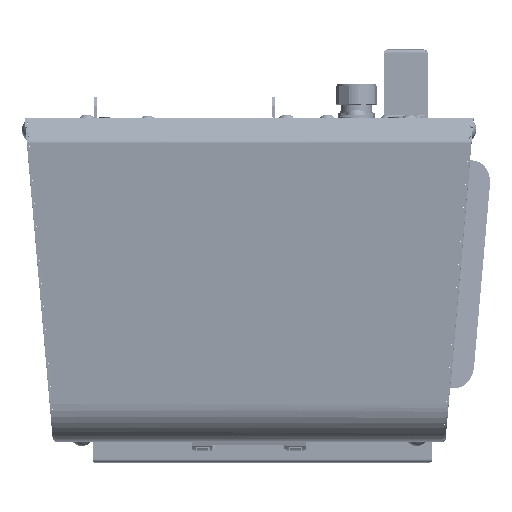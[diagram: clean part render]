
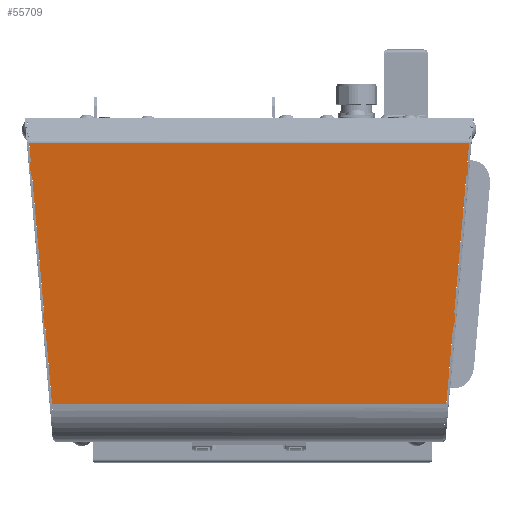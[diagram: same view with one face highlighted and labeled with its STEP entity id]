
A CAD part, top view. The second image highlights one B-rep face of the part: STEP entity #55709.
In plain terms, the highlighted planar face has unit normal (0, -0.087, 0.996).
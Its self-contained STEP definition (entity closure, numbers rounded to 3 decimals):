
#2704=LINE('',#86231,#8525);
#2759=LINE('',#86462,#8580);
#2763=LINE('',#86471,#8584);
#2766=LINE('',#86477,#8587);
#2868=LINE('',#86868,#8689);
#2900=LINE('',#86969,#8721);
#2903=LINE('',#86978,#8724);
#2905=LINE('',#86983,#8726);
#2981=LINE('',#87260,#8802);
#2995=LINE('',#87300,#8816);
#2997=LINE('',#87303,#8818);
#3209=LINE('',#87973,#9030);
#3213=LINE('',#87982,#9034);
#3286=LINE('',#88244,#9107);
#3299=LINE('',#88279,#9120);
#3305=LINE('',#88288,#9126);
#3307=LINE('',#88292,#9128);
#3319=LINE('',#88370,#9140);
#3321=LINE('',#88396,#9142);
#3322=LINE('',#88398,#9143);
#8525=VECTOR('',#69936,1000.);
#8580=VECTOR('',#70075,1000.);
#8584=VECTOR('',#70081,1000.);
#8587=VECTOR('',#70086,1000.);
#8689=VECTOR('',#70322,1000.);
#8721=VECTOR('',#70412,1000.);
#8724=VECTOR('',#70423,1000.);
#8726=VECTOR('',#70427,1000.);
#8802=VECTOR('',#70619,1000.);
#8816=VECTOR('',#70655,1000.);
#8818=VECTOR('',#70659,1000.);
#9030=VECTOR('',#71169,1000.);
#9034=VECTOR('',#71175,1000.);
#9107=VECTOR('',#71436,1000.);
#9120=VECTOR('',#71479,1000.);
#9126=VECTOR('',#71489,1000.);
#9128=VECTOR('',#71493,1000.);
#9140=VECTOR('',#71543,1000.);
#9142=VECTOR('',#71551,1000.);
#9143=VECTOR('',#71554,1000.);
#17186=ORIENTED_EDGE('',*,*,#31363,.T.);
#17187=ORIENTED_EDGE('',*,*,#30783,.T.);
#17188=ORIENTED_EDGE('',*,*,#30911,.F.);
#17189=ORIENTED_EDGE('',*,*,#30576,.F.);
#17190=ORIENTED_EDGE('',*,*,#30572,.F.);
#17191=ORIENTED_EDGE('',*,*,#30781,.T.);
#17192=ORIENTED_EDGE('',*,*,#30579,.F.);
#17193=ORIENTED_EDGE('',*,*,#30727,.F.);
#17194=ORIENTED_EDGE('',*,*,#30891,.F.);
#17195=ORIENTED_EDGE('',*,*,#30776,.T.);
#17196=ORIENTED_EDGE('',*,*,#30913,.F.);
#17197=ORIENTED_EDGE('',*,*,#31335,.T.);
#17198=ORIENTED_EDGE('',*,*,#31359,.F.);
#17199=ORIENTED_EDGE('',*,*,#30489,.F.);
#17200=ORIENTED_EDGE('',*,*,#31341,.F.);
#17201=ORIENTED_EDGE('',*,*,#31343,.T.);
#17202=ORIENTED_EDGE('',*,*,#31320,.F.);
#17203=ORIENTED_EDGE('',*,*,#31213,.F.);
#17204=ORIENTED_EDGE('',*,*,#31209,.F.);
#17205=ORIENTED_EDGE('',*,*,#31362,.T.);
#30489=EDGE_CURVE('',#38167,#38168,#2704,.T.);
#30572=EDGE_CURVE('',#38247,#38248,#2759,.T.);
#30576=EDGE_CURVE('',#38248,#38251,#2763,.T.);
#30579=EDGE_CURVE('',#38253,#38254,#2766,.T.);
#30727=EDGE_CURVE('',#38377,#38253,#2868,.T.);
#30776=EDGE_CURVE('',#38412,#38241,#2900,.T.);
#30781=EDGE_CURVE('',#38247,#38254,#2903,.T.);
#30783=EDGE_CURVE('',#38337,#38416,#2905,.T.);
#30891=EDGE_CURVE('',#38412,#38377,#2981,.T.);
#30911=EDGE_CURVE('',#38251,#38416,#2995,.T.);
#30913=EDGE_CURVE('',#38505,#38241,#2997,.T.);
#31209=EDGE_CURVE('',#38660,#38661,#3209,.T.);
#31213=EDGE_CURVE('',#38661,#38664,#3213,.T.);
#31320=EDGE_CURVE('',#38664,#38699,#3286,.T.);
#31335=EDGE_CURVE('',#38505,#38705,#3299,.T.);
#31341=EDGE_CURVE('',#38707,#38167,#3305,.T.);
#31343=EDGE_CURVE('',#38707,#38699,#3307,.T.);
#31359=EDGE_CURVE('',#38168,#38705,#3319,.T.);
#31362=EDGE_CURVE('',#38660,#38708,#3321,.T.);
#31363=EDGE_CURVE('',#38708,#38337,#3322,.T.);
#38167=VERTEX_POINT('',#86232);
#38168=VERTEX_POINT('',#86233);
#38241=VERTEX_POINT('',#86448);
#38247=VERTEX_POINT('',#86463);
#38248=VERTEX_POINT('',#86464);
#38251=VERTEX_POINT('',#86472);
#38253=VERTEX_POINT('',#86478);
#38254=VERTEX_POINT('',#86479);
#38337=VERTEX_POINT('',#86745);
#38377=VERTEX_POINT('',#86869);
#38412=VERTEX_POINT('',#86967);
#38416=VERTEX_POINT('',#86982);
#38505=VERTEX_POINT('',#87304);
#38660=VERTEX_POINT('',#87974);
#38661=VERTEX_POINT('',#87975);
#38664=VERTEX_POINT('',#87983);
#38699=VERTEX_POINT('',#88245);
#38705=VERTEX_POINT('',#88278);
#38707=VERTEX_POINT('',#88289);
#38708=VERTEX_POINT('',#88395);
#45536=EDGE_LOOP('',(#17186,#17187,#17188,#17189,#17190,#17191,#17192,#17193,
#17194,#17195,#17196,#17197,#17198,#17199,#17200,#17201,#17202,#17203,#17204,
#17205));
#49652=FACE_BOUND('',#45536,.T.);
#53384=PLANE('',#64170);
#55709=ADVANCED_FACE('',(#49652),#53384,.F.);
#64170=AXIS2_PLACEMENT_3D('',#88400,#71557,#71558);
#69936=DIRECTION('',(-0.087,0.992,0.087));
#70075=DIRECTION('',(0.996,-0.086,-0.008));
#70081=DIRECTION('',(-0.087,-0.992,-0.087));
#70086=DIRECTION('',(-0.996,0.086,0.008));
#70322=DIRECTION('',(-0.087,-0.992,-0.087));
#70412=DIRECTION('',(0.087,0.992,0.087));
#70423=DIRECTION('',(0.087,0.992,0.087));
#70427=DIRECTION('',(0.087,0.992,0.087));
#70619=DIRECTION('',(0.996,-0.086,-0.008));
#70655=DIRECTION('',(-0.996,0.086,0.008));
#70659=DIRECTION('',(1.,0.,0.));
#71169=DIRECTION('',(-0.996,-0.086,-0.008));
#71175=DIRECTION('',(-0.087,0.992,0.087));
#71436=DIRECTION('',(0.996,0.086,0.008));
#71479=DIRECTION('',(0.087,-0.992,-0.087));
#71489=DIRECTION('',(-0.996,-0.086,-0.008));
#71493=DIRECTION('',(0.087,-0.992,-0.087));
#71543=DIRECTION('',(0.996,0.086,0.008));
#71551=DIRECTION('',(0.087,-0.992,-0.087));
#71554=DIRECTION('',(1.,0.,0.));
#71557=DIRECTION('',(0.,0.087,-0.996));
#71558=DIRECTION('',(-1.,0.,0.));
#86231=CARTESIAN_POINT('',(-145.706,177.025,531.471));
#86232=CARTESIAN_POINT('',(-145.706,177.025,531.471));
#86233=CARTESIAN_POINT('',(-146.489,185.974,532.254));
#86448=CARTESIAN_POINT('',(146.855,198.896,533.385));
#86462=CARTESIAN_POINT('',(136.908,85.208,523.438));
#86463=CARTESIAN_POINT('',(136.908,85.208,523.438));
#86464=CARTESIAN_POINT('',(137.668,85.143,523.433));
#86471=CARTESIAN_POINT('',(137.668,85.143,523.433));
#86472=CARTESIAN_POINT('',(136.885,76.194,522.65));
#86477=CARTESIAN_POINT('',(145.706,177.025,531.471));
#86478=CARTESIAN_POINT('',(145.706,177.025,531.471));
#86479=CARTESIAN_POINT('',(144.947,177.091,531.477));
#86745=CARTESIAN_POINT('',(131.6,24.531,518.13));
#86868=CARTESIAN_POINT('',(146.489,185.974,532.254));
#86869=CARTESIAN_POINT('',(146.489,185.974,532.254));
#86967=CARTESIAN_POINT('',(145.73,186.04,532.26));
#86969=CARTESIAN_POINT('',(129.489,0.409,516.019));
#86978=CARTESIAN_POINT('',(129.489,0.409,516.019));
#86982=CARTESIAN_POINT('',(136.126,76.26,522.655));
#86983=CARTESIAN_POINT('',(129.489,0.409,516.019));
#87260=CARTESIAN_POINT('',(145.73,186.04,532.26));
#87300=CARTESIAN_POINT('',(136.885,76.194,522.65));
#87303=CARTESIAN_POINT('',(-148.342,198.896,533.385));
#87304=CARTESIAN_POINT('',(-146.855,198.896,533.385));
#87973=CARTESIAN_POINT('',(-136.126,76.26,522.655));
#87974=CARTESIAN_POINT('',(-136.126,76.26,522.655));
#87975=CARTESIAN_POINT('',(-136.885,76.194,522.65));
#87982=CARTESIAN_POINT('',(-136.885,76.194,522.65));
#87983=CARTESIAN_POINT('',(-137.668,85.143,523.433));
#88244=CARTESIAN_POINT('',(-137.668,85.143,523.433));
#88245=CARTESIAN_POINT('',(-136.908,85.208,523.438));
#88278=CARTESIAN_POINT('',(-145.73,186.04,532.26));
#88279=CARTESIAN_POINT('',(-131.726,25.974,518.256));
#88288=CARTESIAN_POINT('',(-144.947,177.091,531.477));
#88289=CARTESIAN_POINT('',(-144.947,177.091,531.477));
#88292=CARTESIAN_POINT('',(-131.726,25.974,518.256));
#88370=CARTESIAN_POINT('',(-146.489,185.974,532.254));
#88395=CARTESIAN_POINT('',(-131.6,24.531,518.13));
#88396=CARTESIAN_POINT('',(-131.726,25.974,518.256));
#88398=CARTESIAN_POINT('',(-148.342,24.531,518.13));
#88400=CARTESIAN_POINT('',(-148.342,24.531,518.13));
